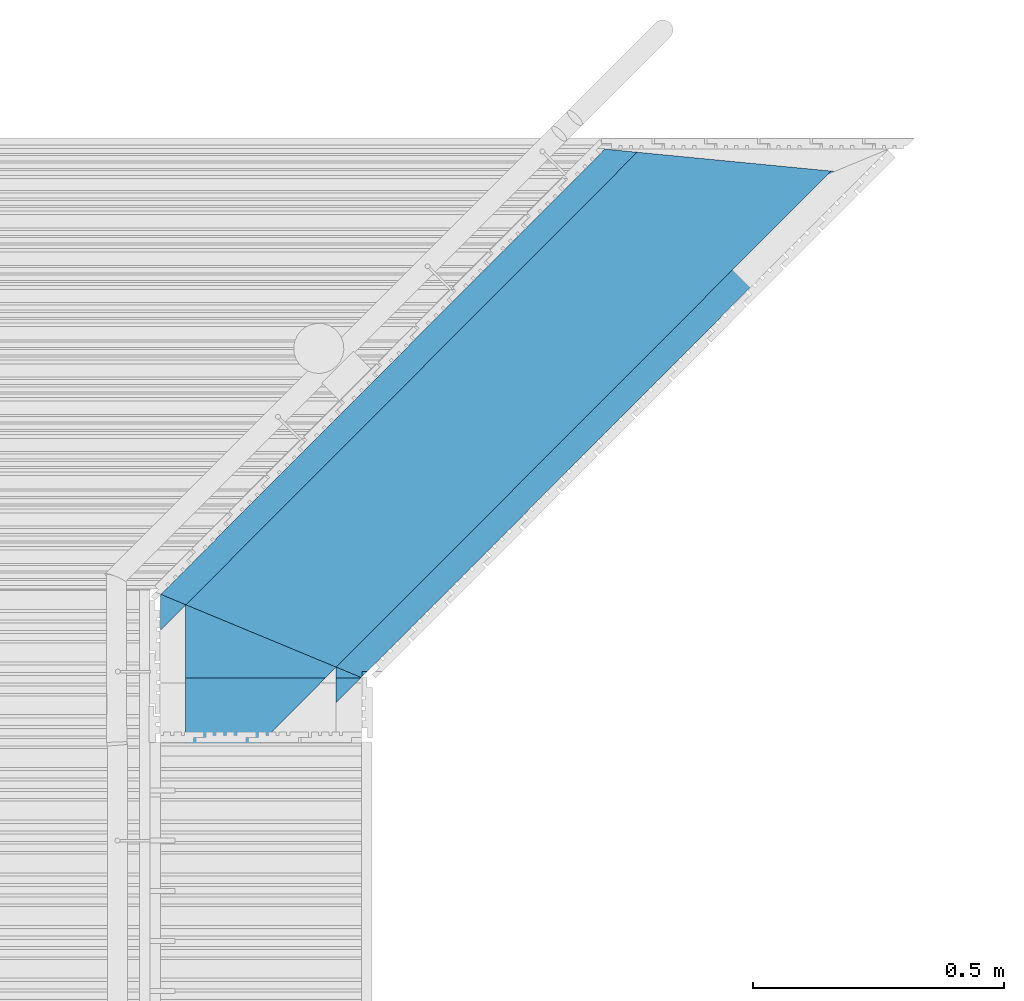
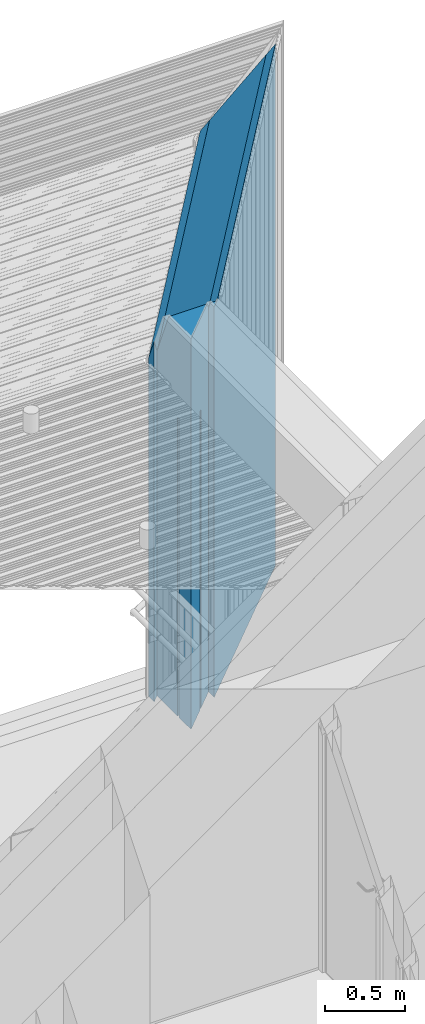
# One storey, part 142 of 418: 3 building element parts, 1 element without a shape of its own.
"""IFC2X3 building model written with IfcOpenShell, lengths in millimetres."""

from ifc_helpers import new_model, entity, si_unit, converted_unit, derived_unit, money_unit, direction, frame, origin_with_axes, place, context, subcontext, project, spatial, polyline, outline, extrude, boolean, faceted_brep, material, type_object, element, aggregate, save


model = new_model("IFC2X3")

# Units and contexts
model_context = context("Model", 3, precision=0.01, world=origin_with_axes(), true_north=direction((0.0, 1.0)))
body_context = subcontext(model_context, "Body", "Model", "MODEL_VIEW")
ifc_project = project(units=[si_unit("LENGTHUNIT", "METRE", prefix="MILLI"), si_unit("AREAUNIT", "SQUARE_METRE"), si_unit("VOLUMEUNIT", "CUBIC_METRE"), converted_unit("PLANEANGLEUNIT", "DEGREE", entity("IfcPlaneAngleMeasure", 0.0174532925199), si_unit("PLANEANGLEUNIT", "RADIAN"), dimensions=[0, 0, 0, 0, 0, 0, 0]), si_unit("SOLIDANGLEUNIT", "STERADIAN"), money_unit("EUR"), converted_unit("TIMEUNIT", "Year", entity("IfcTimeMeasure", 31556926.0), si_unit("TIMEUNIT", "SECOND"), dimensions=[0, 0, 1, 0, 0, 0, 0]), si_unit("MASSUNIT", "GRAM", prefix="KILO"), si_unit("THERMODYNAMICTEMPERATUREUNIT", "DEGREE_CELSIUS"), si_unit("LUMINOUSINTENSITYUNIT", "LUMEN"), si_unit("ENERGYUNIT", "JOULE", prefix="MEGA"), derived_unit("THERMALCONDUCTANCEUNIT", [(si_unit("POWERUNIT", "WATT"), 1), (si_unit("LENGTHUNIT", "METRE"), -1), (si_unit("THERMODYNAMICTEMPERATUREUNIT", "KELVIN"), -1)]), derived_unit("SPECIFICHEATCAPACITYUNIT", [(si_unit("ENERGYUNIT", "JOULE"), 1), (si_unit("MASSUNIT", "GRAM", prefix="KILO"), -1), (si_unit("THERMODYNAMICTEMPERATUREUNIT", "KELVIN"), -1)]), derived_unit("MASSDENSITYUNIT", [(si_unit("MASSUNIT", "GRAM", prefix="KILO"), 1), (si_unit("VOLUMEUNIT", "CUBIC_METRE"), -1)])], contexts=[model_context])

# Site, building, storey
site_placement = place(None, origin_with_axes())
site = spatial("IfcSite", under=ifc_project, at=site_placement, Name="Paldiski mnt 245/1, Tallinn, Harjumaa", CompositionType="COMPLEX")
building_placement = place(site_placement, origin_with_axes())
building = spatial("IfcBuilding", under=site, at=building_placement, Name="RKAS Hoone üldnimetus (kasutust iseloomustav) -> IFC Project Manager -> SOLIBRI", CompositionType="ELEMENT")
storey_placement = place(building_placement, origin_with_axes())
storey = spatial("IfcBuildingStorey", under=building, at=storey_placement, Name="Esimene korrus", CompositionType="ELEMENT", Elevation=0.0)

# Proxy, building element parts
building_element_proxy_type = type_object("IfcBuildingElementProxyType", Name="Varikatuse_sein 400", PredefinedType="NOTDEFINED")
proxy_placement = place(storey_placement, frame((-47339.0790267, 39767.252735, 0.0), z_axis=(0.0, 0.0, 1.0), x_axis=(-0.706191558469, -0.708020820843, 0.0)))
proxy = element("IfcBuildingElementProxy", 1, at=proxy_placement, inside=storey, type_object=building_element_proxy_type, Name="Varikatus")
ifc_material = material(Name="SKR-01_Õhkvahe - Raam")
building_element_part_1_placement = place(proxy_placement, origin_with_axes())
building_element_part_1 = element("IfcBuildingElementPart", 2, at=building_element_part_1_placement, material=ifc_material, Name="SKR-01_Õhkvahe - Raam", context=body_context, shape_type="CSG", body=[
    boolean("DIFFERENCE", boolean("DIFFERENCE", boolean("DIFFERENCE", boolean("DIFFERENCE", boolean("DIFFERENCE", boolean("DIFFERENCE", extrude(outline(polyline([(-398.966548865, 350.0), (1654.52755892, 350.0), (1654.52755892, 400.0), (-398.966548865, 400.0), (-398.966548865, 350.0)])), origin_with_axes(), (0.0, 0.0, 1.0), 4090.0), faceted_brep([(1071.12000354, 400.000010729, 2982.00000037), (1071.12000354, 400.000010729, 2992.50012741), (-328.347165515, 400.000010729, 3982.65187754), (-328.347165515, 400.000010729, 0.0), (-398.966548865, 400.0, 0.0), (-398.966548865, 400.0, 4090.0), (1654.52755892, 400.0, 4090.0), (1654.52755892, 400.0, 0.0), (1158.91132858, 400.000002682, 0.0), (1158.91133658, 400.000010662, 2982.00000037), (1088.87738059, 400.000010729, 2982.00000037), (1088.02354381, 400.000010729, 2980.54052567), (1085.9607419, 400.000010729, 2982.00000037), (1078.52582283, 392.575007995, 2982.00000037), (1108.63795114, 350.0, 2930.53212949), (-287.303762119, 350.0, 3918.18954728), (-287.303762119, 350.0, 0.0), (-398.966548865, 350.0, 0.0), (-398.966548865, 350.0, 4090.0), (1654.52755892, 350.0, 4090.0), (1654.52755892, 350.0, 0.0), (1108.78180988, 349.999999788, 0.0), (1108.78180988, 349.999999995, 2930.77802922), (1123.80377089, 364.983149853, 2982.00000037)], [[[0, 1, 2, 3, 4, 5, 6, 7, 8, 9, 10, 11, 12]], [[1, 0, 13]], [[2, 1, 13, 12, 11, 14, 15]], [[3, 2, 15, 16]], [[3, 16, 17, 4]], [[5, 4, 17, 18]], [[5, 18, 19, 6]], [[19, 20, 7, 6]], [[21, 8, 7, 20]], [[21, 22, 23, 9, 8]], [[10, 9, 23]], [[11, 10, 23, 22, 14]], [[0, 12, 13]], [[22, 21, 20, 19, 18, 17, 16, 15, 14]]])), faceted_brep([(1344.70536918, 306.609979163, 0.0), (1339.74922237, 301.66663859, 0.0), (1313.24861187, 328.235895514, 0.0), (1320.68282972, 335.650906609, 0.0), (1334.80666107, 321.490489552, 0.0), (1342.24088065, 328.905502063, 0.0), (1412.86003616, 258.103420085, 0.0), (1405.77982842, 251.041504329, 0.0), (1391.65599691, 265.201919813, 0.0), (1383.86776739, 257.433813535, 0.0), (1373.57418686, 267.754057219, 0.0), (1378.53033209, 272.697397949, 0.0), (1374.54694013, 276.691109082, 0.0), (1369.59079333, 271.747768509, 0.0), (1359.11903785, 282.246650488, 0.0), (1364.07518308, 287.189991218, 0.0), (1359.74838963, 291.527993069, 0.0), (1354.7922444, 286.584652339, 0.0), (1344.24236587, 297.161858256, 0.0), (1349.1985111, 302.105198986, 0.0), (1344.70536918, 306.609979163, 2280.0), (1339.74922237, 301.66663859, 2280.0), (1313.24861187, 328.235895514, 2280.0), (1320.68282972, 335.650906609, 2280.0), (1334.80666107, 321.490489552, 2280.0), (1342.24088065, 328.905502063, 2280.0), (1412.86003616, 258.103420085, 2280.0), (1405.77982842, 251.041504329, 2280.0), (1391.65599691, 265.201919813, 2280.0), (1383.86776739, 257.433813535, 2280.0), (1373.57418686, 267.754057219, 2280.0), (1378.53033209, 272.697397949, 2280.0), (1374.54694013, 276.691109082, 2280.0), (1369.59079333, 271.747768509, 2280.0), (1359.11903785, 282.246650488, 2280.0), (1364.07518308, 287.189991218, 2280.0), (1359.74838963, 291.527993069, 2280.0), (1354.7922444, 286.584652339, 2280.0), (1344.24236587, 297.161858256, 2280.0), (1349.1985111, 302.105198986, 2280.0)], [[[0, 1, 2, 3, 4, 5, 6, 7, 8, 9, 10, 11, 12, 13, 14, 15, 16, 17, 18, 19]], [[1, 0, 20, 21]], [[2, 1, 21, 22]], [[3, 2, 22, 23]], [[4, 3, 23, 24]], [[5, 4, 24, 25]], [[6, 5, 25, 26]], [[7, 6, 26, 27]], [[8, 7, 27, 28]], [[9, 8, 28, 29]], [[10, 9, 29, 30]], [[11, 10, 30, 31]], [[12, 11, 31, 32]], [[13, 12, 32, 33]], [[14, 13, 33, 34]], [[15, 14, 34, 35]], [[16, 15, 35, 36]], [[17, 16, 36, 37]], [[18, 17, 37, 38]], [[19, 18, 38, 39]], [[0, 19, 39, 20]], [[38, 37, 36, 35, 34, 33, 32, 31, 30, 29, 28, 27, 26, 25, 24, 23, 22, 21, 20, 39]]])), faceted_brep([(1321.20088288, 350.0, 2280.0), (1321.20088329, 349.999999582, 0.0), (1301.42745197, 349.999999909, 0.0), (1301.42745188, 350.0, 2280.0), (1338.70992252, 332.445606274, 2280.0), (1338.70992252, 332.445606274, 0.0), (1304.38021845, 347.039584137, 0.0), (1331.62971478, 325.383690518, 0.0), (1317.50588327, 339.544106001, 0.0), (1309.71765375, 331.775999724, 0.0), (1299.42407322, 342.096243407, 0.0), (1304.38021845, 347.039584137, 2280.0), (1299.42407322, 342.096243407, 2280.0), (1309.71765375, 331.775999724, 2280.0), (1317.50588327, 339.544106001, 2280.0), (1331.62971478, 325.383690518, 2280.0)], [[[0, 1, 2, 3]], [[1, 0, 4, 5]], [[6, 2, 1, 5, 7, 8, 9, 10]], [[3, 2, 6, 11]], [[0, 3, 11, 12, 13, 14, 15, 4]], [[7, 5, 4, 15]], [[8, 7, 15, 14]], [[9, 8, 14, 13]], [[10, 9, 13, 12]], [[6, 10, 12, 11]]])), faceted_brep([(1299.36085436, 350.0, 2280.0), (1299.36085436, 350.0, 0.0), (1291.54073721, 349.99999976, 0.0), (1291.54073697, 350.0, 2280.0), (1295.44067969, 346.089954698, 0.0), (1295.44067969, 346.089954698, 2280.0)], [[[0, 1, 2, 3]], [[4, 1, 0, 5]], [[4, 2, 1]], [[3, 2, 4, 5]], [[0, 3, 5]]])), faceted_brep([(1108.78180988, 349.999999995, 2930.77802922), (1108.63795114, 350.0, 2930.53212949), (-287.303762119, 350.0, 3918.18954728), (-287.303762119, 350.0, 0.0), (-398.966548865, 350.0, 0.0), (-398.966548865, 350.0, 4090.0), (1654.52755892, 350.0, 4090.0), (1654.52755892, 350.0, 0.0), (1533.5957239, 350.0, 0.0), (1533.5957239, 350.0, 2982.00000037), (1138.74820986, 349.999999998, 2982.00000037), (1335.66123843, 152.5769036, 2982.00000037), (1232.81862779, 50.0, 2631.32666081), (1232.32436854, 50.0, 2630.4818168), (-41.0433945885, 50.0, 3531.41564874), (-41.0433945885, 50.0, 0.0), (-398.966548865, 50.0, 0.0), (-398.966548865, 50.0, 4090.0), (1654.52755892, 50.0, 4090.0), (1654.52755892, 50.0, 0.0), (1427.12357458, 243.802935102, 0.0), (1232.81862779, 50.0, 0.0), (1412.25513599, 228.972911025, 0.0), (1387.39872556, 253.893709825, 0.0), (1394.83294347, 261.308720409, 0.0), (1408.95677526, 247.148303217, 0.0), (1416.39099458, 254.563316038, 0.0), (1427.12357458, 243.802935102, 2280.0), (1412.25513599, 228.972911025, 2280.0), (1387.39872556, 253.893709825, 2280.0), (1394.83294347, 261.308720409, 2280.0), (1408.95677526, 247.148303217, 2280.0), (1416.39099458, 254.563316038, 2280.0)], [[[0, 1, 2, 3, 4, 5, 6, 7, 8, 9, 10]], [[1, 0, 10, 11, 12, 13]], [[2, 1, 13, 14]], [[3, 2, 14, 15]], [[3, 15, 16, 4]], [[5, 4, 16, 17]], [[5, 17, 18, 6]], [[18, 19, 7, 6]], [[20, 8, 7, 19, 21, 22, 23, 24, 25, 26]], [[21, 12, 11, 9, 8, 20, 27, 28, 22]], [[10, 9, 11]], [[12, 21, 19, 18, 17, 16, 15, 14, 13]], [[23, 22, 28, 29]], [[24, 23, 29, 30]], [[25, 24, 30, 31]], [[26, 25, 31, 32]], [[20, 26, 32, 27]], [[28, 27, 32, 31, 30, 29]]])), faceted_brep([(1232.81862779, 50.0, 2631.32666081), (1232.32436854, 50.0, 2630.4818168), (-41.0433945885, 50.0, 3531.41564874), (-41.0433945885, 50.0, 0.0), (-398.966548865, 50.0, 0.0), (-398.966548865, 50.0, 4090.0), (1654.52755892, 50.0, 4090.0), (1654.52755892, 50.0, 0.0), (1303.62094679, 50.0, 0.0), (1303.62094679, 50.0, 2752.35001841), (1253.49143077, 0.0, 2581.4180994), (1252.93877144, 0.0, 2580.47343135), (0.0, 0.0, 3466.95333231), (0.0, 0.0, 0.0), (-398.966548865, 0.0, 0.0), (-398.966548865, 0.0, 4090.0), (1654.52755892, 0.0, 4090.0), (1654.52755892, 0.0, 0.0), (1253.49143077, 0.0, 0.0)], [[[0, 1, 2, 3, 4, 5, 6, 7, 8, 9]], [[1, 0, 9, 10, 11]], [[2, 1, 11, 12]], [[3, 2, 12, 13]], [[3, 13, 14, 4]], [[5, 4, 14, 15]], [[5, 15, 16, 6]], [[16, 17, 7, 6]], [[18, 8, 7, 17]], [[18, 10, 9, 8]], [[10, 18, 17, 16, 15, 14, 13, 12, 11]]])),
])
building_element_part_2_placement = place(proxy_placement, origin_with_axes())
building_element_part_2 = element("IfcBuildingElementPart", 3, at=building_element_part_2_placement, material=ifc_material, Name="SKR-01_Õhkvahe - Raam", context=body_context, shape_type="CSG", body=[
    boolean("DIFFERENCE", boolean("DIFFERENCE", boolean("DIFFERENCE", boolean("DIFFERENCE", boolean("DIFFERENCE", boolean("DIFFERENCE", extrude(outline(polyline([(-398.966548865, 50.0), (1654.52755892, 50.0), (1654.52755892, 350.0), (-398.966548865, 350.0), (-398.966548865, 50.0)])), origin_with_axes(), (0.0, 0.0, 1.0), 4090.0), faceted_brep([(1071.12000354, 400.000010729, 2982.00000037), (1071.12000354, 400.000010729, 2992.50012741), (-328.347165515, 400.000010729, 3982.65187754), (-328.347165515, 400.000010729, 0.0), (-398.966548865, 400.0, 0.0), (-398.966548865, 400.0, 4090.0), (1654.52755892, 400.0, 4090.0), (1654.52755892, 400.0, 0.0), (1158.91132858, 400.000002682, 0.0), (1158.91133658, 400.000010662, 2982.00000037), (1088.87738059, 400.000010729, 2982.00000037), (1088.02354381, 400.000010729, 2980.54052567), (1085.9607419, 400.000010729, 2982.00000037), (1078.52582283, 392.575007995, 2982.00000037), (1108.63795114, 350.0, 2930.53212949), (-287.303762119, 350.0, 3918.18954728), (-287.303762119, 350.0, 0.0), (-398.966548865, 350.0, 0.0), (-398.966548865, 350.0, 4090.0), (1654.52755892, 350.0, 4090.0), (1654.52755892, 350.0, 0.0), (1108.78180988, 349.999999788, 0.0), (1108.78180988, 349.999999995, 2930.77802922), (1123.80377089, 364.983149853, 2982.00000037)], [[[0, 1, 2, 3, 4, 5, 6, 7, 8, 9, 10, 11, 12]], [[1, 0, 13]], [[2, 1, 13, 12, 11, 14, 15]], [[3, 2, 15, 16]], [[3, 16, 17, 4]], [[5, 4, 17, 18]], [[5, 18, 19, 6]], [[19, 20, 7, 6]], [[21, 8, 7, 20]], [[21, 22, 23, 9, 8]], [[10, 9, 23]], [[11, 10, 23, 22, 14]], [[0, 12, 13]], [[22, 21, 20, 19, 18, 17, 16, 15, 14]]])), faceted_brep([(1344.70536918, 306.609979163, 0.0), (1339.74922237, 301.66663859, 0.0), (1313.24861187, 328.235895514, 0.0), (1320.68282972, 335.650906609, 0.0), (1334.80666107, 321.490489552, 0.0), (1342.24088065, 328.905502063, 0.0), (1412.86003616, 258.103420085, 0.0), (1405.77982842, 251.041504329, 0.0), (1391.65599691, 265.201919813, 0.0), (1383.86776739, 257.433813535, 0.0), (1373.57418686, 267.754057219, 0.0), (1378.53033209, 272.697397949, 0.0), (1374.54694013, 276.691109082, 0.0), (1369.59079333, 271.747768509, 0.0), (1359.11903785, 282.246650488, 0.0), (1364.07518308, 287.189991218, 0.0), (1359.74838963, 291.527993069, 0.0), (1354.7922444, 286.584652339, 0.0), (1344.24236587, 297.161858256, 0.0), (1349.1985111, 302.105198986, 0.0), (1344.70536918, 306.609979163, 2280.0), (1339.74922237, 301.66663859, 2280.0), (1313.24861187, 328.235895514, 2280.0), (1320.68282972, 335.650906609, 2280.0), (1334.80666107, 321.490489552, 2280.0), (1342.24088065, 328.905502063, 2280.0), (1412.86003616, 258.103420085, 2280.0), (1405.77982842, 251.041504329, 2280.0), (1391.65599691, 265.201919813, 2280.0), (1383.86776739, 257.433813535, 2280.0), (1373.57418686, 267.754057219, 2280.0), (1378.53033209, 272.697397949, 2280.0), (1374.54694013, 276.691109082, 2280.0), (1369.59079333, 271.747768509, 2280.0), (1359.11903785, 282.246650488, 2280.0), (1364.07518308, 287.189991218, 2280.0), (1359.74838963, 291.527993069, 2280.0), (1354.7922444, 286.584652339, 2280.0), (1344.24236587, 297.161858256, 2280.0), (1349.1985111, 302.105198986, 2280.0)], [[[0, 1, 2, 3, 4, 5, 6, 7, 8, 9, 10, 11, 12, 13, 14, 15, 16, 17, 18, 19]], [[1, 0, 20, 21]], [[2, 1, 21, 22]], [[3, 2, 22, 23]], [[4, 3, 23, 24]], [[5, 4, 24, 25]], [[6, 5, 25, 26]], [[7, 6, 26, 27]], [[8, 7, 27, 28]], [[9, 8, 28, 29]], [[10, 9, 29, 30]], [[11, 10, 30, 31]], [[12, 11, 31, 32]], [[13, 12, 32, 33]], [[14, 13, 33, 34]], [[15, 14, 34, 35]], [[16, 15, 35, 36]], [[17, 16, 36, 37]], [[18, 17, 37, 38]], [[19, 18, 38, 39]], [[0, 19, 39, 20]], [[38, 37, 36, 35, 34, 33, 32, 31, 30, 29, 28, 27, 26, 25, 24, 23, 22, 21, 20, 39]]])), faceted_brep([(1321.20088288, 350.0, 2280.0), (1321.20088329, 349.999999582, 0.0), (1301.42745197, 349.999999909, 0.0), (1301.42745188, 350.0, 2280.0), (1338.70992252, 332.445606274, 2280.0), (1338.70992252, 332.445606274, 0.0), (1304.38021845, 347.039584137, 0.0), (1331.62971478, 325.383690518, 0.0), (1317.50588327, 339.544106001, 0.0), (1309.71765375, 331.775999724, 0.0), (1299.42407322, 342.096243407, 0.0), (1304.38021845, 347.039584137, 2280.0), (1299.42407322, 342.096243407, 2280.0), (1309.71765375, 331.775999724, 2280.0), (1317.50588327, 339.544106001, 2280.0), (1331.62971478, 325.383690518, 2280.0)], [[[0, 1, 2, 3]], [[1, 0, 4, 5]], [[6, 2, 1, 5, 7, 8, 9, 10]], [[3, 2, 6, 11]], [[0, 3, 11, 12, 13, 14, 15, 4]], [[7, 5, 4, 15]], [[8, 7, 15, 14]], [[9, 8, 14, 13]], [[10, 9, 13, 12]], [[6, 10, 12, 11]]])), faceted_brep([(1299.36085436, 350.0, 2280.0), (1299.36085436, 350.0, 0.0), (1291.54073721, 349.99999976, 0.0), (1291.54073697, 350.0, 2280.0), (1295.44067969, 346.089954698, 0.0), (1295.44067969, 346.089954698, 2280.0)], [[[0, 1, 2, 3]], [[4, 1, 0, 5]], [[4, 2, 1]], [[3, 2, 4, 5]], [[0, 3, 5]]])), faceted_brep([(1108.78180988, 349.999999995, 2930.77802922), (1108.63795114, 350.0, 2930.53212949), (-287.303762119, 350.0, 3918.18954728), (-287.303762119, 350.0, 0.0), (-398.966548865, 350.0, 0.0), (-398.966548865, 350.0, 4090.0), (1654.52755892, 350.0, 4090.0), (1654.52755892, 350.0, 0.0), (1533.5957239, 350.0, 0.0), (1533.5957239, 350.0, 2982.00000037), (1138.74820986, 349.999999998, 2982.00000037), (1335.66123843, 152.5769036, 2982.00000037), (1232.81862779, 50.0, 2631.32666081), (1232.32436854, 50.0, 2630.4818168), (-41.0433945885, 50.0, 3531.41564874), (-41.0433945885, 50.0, 0.0), (-398.966548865, 50.0, 0.0), (-398.966548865, 50.0, 4090.0), (1654.52755892, 50.0, 4090.0), (1654.52755892, 50.0, 0.0), (1427.12357458, 243.802935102, 0.0), (1232.81862779, 50.0, 0.0), (1412.25513599, 228.972911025, 0.0), (1387.39872556, 253.893709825, 0.0), (1394.83294347, 261.308720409, 0.0), (1408.95677526, 247.148303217, 0.0), (1416.39099458, 254.563316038, 0.0), (1427.12357458, 243.802935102, 2280.0), (1412.25513599, 228.972911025, 2280.0), (1387.39872556, 253.893709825, 2280.0), (1394.83294347, 261.308720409, 2280.0), (1408.95677526, 247.148303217, 2280.0), (1416.39099458, 254.563316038, 2280.0)], [[[0, 1, 2, 3, 4, 5, 6, 7, 8, 9, 10]], [[1, 0, 10, 11, 12, 13]], [[2, 1, 13, 14]], [[3, 2, 14, 15]], [[3, 15, 16, 4]], [[5, 4, 16, 17]], [[5, 17, 18, 6]], [[18, 19, 7, 6]], [[20, 8, 7, 19, 21, 22, 23, 24, 25, 26]], [[21, 12, 11, 9, 8, 20, 27, 28, 22]], [[10, 9, 11]], [[12, 21, 19, 18, 17, 16, 15, 14, 13]], [[23, 22, 28, 29]], [[24, 23, 29, 30]], [[25, 24, 30, 31]], [[26, 25, 31, 32]], [[20, 26, 32, 27]], [[28, 27, 32, 31, 30, 29]]])), faceted_brep([(1232.81862779, 50.0, 2631.32666081), (1232.32436854, 50.0, 2630.4818168), (-41.0433945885, 50.0, 3531.41564874), (-41.0433945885, 50.0, 0.0), (-398.966548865, 50.0, 0.0), (-398.966548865, 50.0, 4090.0), (1654.52755892, 50.0, 4090.0), (1654.52755892, 50.0, 0.0), (1303.62094679, 50.0, 0.0), (1303.62094679, 50.0, 2752.35001841), (1253.49143077, 0.0, 2581.4180994), (1252.93877144, 0.0, 2580.47343135), (0.0, 0.0, 3466.95333231), (0.0, 0.0, 0.0), (-398.966548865, 0.0, 0.0), (-398.966548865, 0.0, 4090.0), (1654.52755892, 0.0, 4090.0), (1654.52755892, 0.0, 0.0), (1253.49143077, 0.0, 0.0)], [[[0, 1, 2, 3, 4, 5, 6, 7, 8, 9]], [[1, 0, 9, 10, 11]], [[2, 1, 11, 12]], [[3, 2, 12, 13]], [[3, 13, 14, 4]], [[5, 4, 14, 15]], [[5, 15, 16, 6]], [[16, 17, 7, 6]], [[18, 8, 7, 17]], [[18, 10, 9, 8]], [[10, 18, 17, 16, 15, 14, 13, 12, 11]]])),
])
building_element_part_3_placement = place(proxy_placement, origin_with_axes())
building_element_part_3 = element("IfcBuildingElementPart", 4, at=building_element_part_3_placement, material=ifc_material, Name="SKR-01_Õhkvahe - Raam", context=body_context, shape_type="CSG", body=[
    boolean("DIFFERENCE", boolean("DIFFERENCE", boolean("DIFFERENCE", boolean("DIFFERENCE", boolean("DIFFERENCE", boolean("DIFFERENCE", extrude(outline(polyline([(-398.966548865, 0.0), (1654.52755892, 0.0), (1654.52755892, 50.0), (-398.966548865, 50.0), (-398.966548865, 0.0)])), origin_with_axes(), (0.0, 0.0, 1.0), 4090.0), faceted_brep([(1071.12000354, 400.000010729, 2982.00000037), (1071.12000354, 400.000010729, 2992.50012741), (-328.347165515, 400.000010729, 3982.65187754), (-328.347165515, 400.000010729, 0.0), (-398.966548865, 400.0, 0.0), (-398.966548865, 400.0, 4090.0), (1654.52755892, 400.0, 4090.0), (1654.52755892, 400.0, 0.0), (1158.91132858, 400.000002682, 0.0), (1158.91133658, 400.000010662, 2982.00000037), (1088.87738059, 400.000010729, 2982.00000037), (1088.02354381, 400.000010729, 2980.54052567), (1085.9607419, 400.000010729, 2982.00000037), (1078.52582283, 392.575007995, 2982.00000037), (1108.63795114, 350.0, 2930.53212949), (-287.303762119, 350.0, 3918.18954728), (-287.303762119, 350.0, 0.0), (-398.966548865, 350.0, 0.0), (-398.966548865, 350.0, 4090.0), (1654.52755892, 350.0, 4090.0), (1654.52755892, 350.0, 0.0), (1108.78180988, 349.999999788, 0.0), (1108.78180988, 349.999999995, 2930.77802922), (1123.80377089, 364.983149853, 2982.00000037)], [[[0, 1, 2, 3, 4, 5, 6, 7, 8, 9, 10, 11, 12]], [[1, 0, 13]], [[2, 1, 13, 12, 11, 14, 15]], [[3, 2, 15, 16]], [[3, 16, 17, 4]], [[5, 4, 17, 18]], [[5, 18, 19, 6]], [[19, 20, 7, 6]], [[21, 8, 7, 20]], [[21, 22, 23, 9, 8]], [[10, 9, 23]], [[11, 10, 23, 22, 14]], [[0, 12, 13]], [[22, 21, 20, 19, 18, 17, 16, 15, 14]]])), faceted_brep([(1344.70536918, 306.609979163, 0.0), (1339.74922237, 301.66663859, 0.0), (1313.24861187, 328.235895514, 0.0), (1320.68282972, 335.650906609, 0.0), (1334.80666107, 321.490489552, 0.0), (1342.24088065, 328.905502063, 0.0), (1412.86003616, 258.103420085, 0.0), (1405.77982842, 251.041504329, 0.0), (1391.65599691, 265.201919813, 0.0), (1383.86776739, 257.433813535, 0.0), (1373.57418686, 267.754057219, 0.0), (1378.53033209, 272.697397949, 0.0), (1374.54694013, 276.691109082, 0.0), (1369.59079333, 271.747768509, 0.0), (1359.11903785, 282.246650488, 0.0), (1364.07518308, 287.189991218, 0.0), (1359.74838963, 291.527993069, 0.0), (1354.7922444, 286.584652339, 0.0), (1344.24236587, 297.161858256, 0.0), (1349.1985111, 302.105198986, 0.0), (1344.70536918, 306.609979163, 2280.0), (1339.74922237, 301.66663859, 2280.0), (1313.24861187, 328.235895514, 2280.0), (1320.68282972, 335.650906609, 2280.0), (1334.80666107, 321.490489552, 2280.0), (1342.24088065, 328.905502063, 2280.0), (1412.86003616, 258.103420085, 2280.0), (1405.77982842, 251.041504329, 2280.0), (1391.65599691, 265.201919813, 2280.0), (1383.86776739, 257.433813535, 2280.0), (1373.57418686, 267.754057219, 2280.0), (1378.53033209, 272.697397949, 2280.0), (1374.54694013, 276.691109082, 2280.0), (1369.59079333, 271.747768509, 2280.0), (1359.11903785, 282.246650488, 2280.0), (1364.07518308, 287.189991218, 2280.0), (1359.74838963, 291.527993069, 2280.0), (1354.7922444, 286.584652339, 2280.0), (1344.24236587, 297.161858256, 2280.0), (1349.1985111, 302.105198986, 2280.0)], [[[0, 1, 2, 3, 4, 5, 6, 7, 8, 9, 10, 11, 12, 13, 14, 15, 16, 17, 18, 19]], [[1, 0, 20, 21]], [[2, 1, 21, 22]], [[3, 2, 22, 23]], [[4, 3, 23, 24]], [[5, 4, 24, 25]], [[6, 5, 25, 26]], [[7, 6, 26, 27]], [[8, 7, 27, 28]], [[9, 8, 28, 29]], [[10, 9, 29, 30]], [[11, 10, 30, 31]], [[12, 11, 31, 32]], [[13, 12, 32, 33]], [[14, 13, 33, 34]], [[15, 14, 34, 35]], [[16, 15, 35, 36]], [[17, 16, 36, 37]], [[18, 17, 37, 38]], [[19, 18, 38, 39]], [[0, 19, 39, 20]], [[38, 37, 36, 35, 34, 33, 32, 31, 30, 29, 28, 27, 26, 25, 24, 23, 22, 21, 20, 39]]])), faceted_brep([(1321.20088288, 350.0, 2280.0), (1321.20088329, 349.999999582, 0.0), (1301.42745197, 349.999999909, 0.0), (1301.42745188, 350.0, 2280.0), (1338.70992252, 332.445606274, 2280.0), (1338.70992252, 332.445606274, 0.0), (1304.38021845, 347.039584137, 0.0), (1331.62971478, 325.383690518, 0.0), (1317.50588327, 339.544106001, 0.0), (1309.71765375, 331.775999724, 0.0), (1299.42407322, 342.096243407, 0.0), (1304.38021845, 347.039584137, 2280.0), (1299.42407322, 342.096243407, 2280.0), (1309.71765375, 331.775999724, 2280.0), (1317.50588327, 339.544106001, 2280.0), (1331.62971478, 325.383690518, 2280.0)], [[[0, 1, 2, 3]], [[1, 0, 4, 5]], [[6, 2, 1, 5, 7, 8, 9, 10]], [[3, 2, 6, 11]], [[0, 3, 11, 12, 13, 14, 15, 4]], [[7, 5, 4, 15]], [[8, 7, 15, 14]], [[9, 8, 14, 13]], [[10, 9, 13, 12]], [[6, 10, 12, 11]]])), faceted_brep([(1299.36085436, 350.0, 2280.0), (1299.36085436, 350.0, 0.0), (1291.54073721, 349.99999976, 0.0), (1291.54073697, 350.0, 2280.0), (1295.44067969, 346.089954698, 0.0), (1295.44067969, 346.089954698, 2280.0)], [[[0, 1, 2, 3]], [[4, 1, 0, 5]], [[4, 2, 1]], [[3, 2, 4, 5]], [[0, 3, 5]]])), faceted_brep([(1108.78180988, 349.999999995, 2930.77802922), (1108.63795114, 350.0, 2930.53212949), (-287.303762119, 350.0, 3918.18954728), (-287.303762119, 350.0, 0.0), (-398.966548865, 350.0, 0.0), (-398.966548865, 350.0, 4090.0), (1654.52755892, 350.0, 4090.0), (1654.52755892, 350.0, 0.0), (1533.5957239, 350.0, 0.0), (1533.5957239, 350.0, 2982.00000037), (1138.74820986, 349.999999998, 2982.00000037), (1335.66123843, 152.5769036, 2982.00000037), (1232.81862779, 50.0, 2631.32666081), (1232.32436854, 50.0, 2630.4818168), (-41.0433945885, 50.0, 3531.41564874), (-41.0433945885, 50.0, 0.0), (-398.966548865, 50.0, 0.0), (-398.966548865, 50.0, 4090.0), (1654.52755892, 50.0, 4090.0), (1654.52755892, 50.0, 0.0), (1427.12357458, 243.802935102, 0.0), (1232.81862779, 50.0, 0.0), (1412.25513599, 228.972911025, 0.0), (1387.39872556, 253.893709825, 0.0), (1394.83294347, 261.308720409, 0.0), (1408.95677526, 247.148303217, 0.0), (1416.39099458, 254.563316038, 0.0), (1427.12357458, 243.802935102, 2280.0), (1412.25513599, 228.972911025, 2280.0), (1387.39872556, 253.893709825, 2280.0), (1394.83294347, 261.308720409, 2280.0), (1408.95677526, 247.148303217, 2280.0), (1416.39099458, 254.563316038, 2280.0)], [[[0, 1, 2, 3, 4, 5, 6, 7, 8, 9, 10]], [[1, 0, 10, 11, 12, 13]], [[2, 1, 13, 14]], [[3, 2, 14, 15]], [[3, 15, 16, 4]], [[5, 4, 16, 17]], [[5, 17, 18, 6]], [[18, 19, 7, 6]], [[20, 8, 7, 19, 21, 22, 23, 24, 25, 26]], [[21, 12, 11, 9, 8, 20, 27, 28, 22]], [[10, 9, 11]], [[12, 21, 19, 18, 17, 16, 15, 14, 13]], [[23, 22, 28, 29]], [[24, 23, 29, 30]], [[25, 24, 30, 31]], [[26, 25, 31, 32]], [[20, 26, 32, 27]], [[28, 27, 32, 31, 30, 29]]])), faceted_brep([(1232.81862779, 50.0, 2631.32666081), (1232.32436854, 50.0, 2630.4818168), (-41.0433945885, 50.0, 3531.41564874), (-41.0433945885, 50.0, 0.0), (-398.966548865, 50.0, 0.0), (-398.966548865, 50.0, 4090.0), (1654.52755892, 50.0, 4090.0), (1654.52755892, 50.0, 0.0), (1303.62094679, 50.0, 0.0), (1303.62094679, 50.0, 2752.35001841), (1253.49143077, 0.0, 2581.4180994), (1252.93877144, 0.0, 2580.47343135), (0.0, 0.0, 3466.95333231), (0.0, 0.0, 0.0), (-398.966548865, 0.0, 0.0), (-398.966548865, 0.0, 4090.0), (1654.52755892, 0.0, 4090.0), (1654.52755892, 0.0, 0.0), (1253.49143077, 0.0, 0.0)], [[[0, 1, 2, 3, 4, 5, 6, 7, 8, 9]], [[1, 0, 9, 10, 11]], [[2, 1, 11, 12]], [[3, 2, 12, 13]], [[3, 13, 14, 4]], [[5, 4, 14, 15]], [[5, 15, 16, 6]], [[16, 17, 7, 6]], [[18, 8, 7, 17]], [[18, 10, 9, 8]], [[10, 18, 17, 16, 15, 14, 13, 12, 11]]])),
])
aggregate(proxy, [building_element_part_1, building_element_part_2, building_element_part_3])

save(model, "model.ifc")
